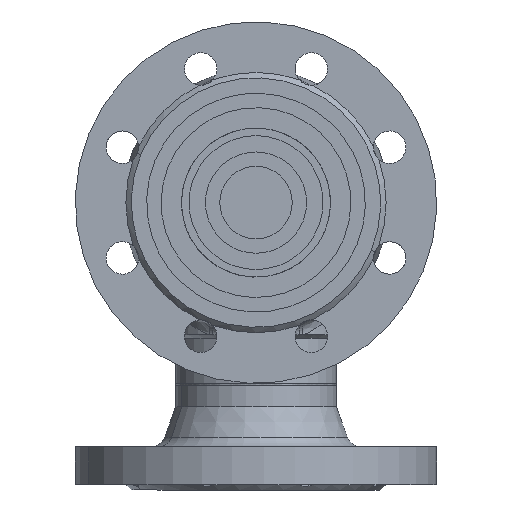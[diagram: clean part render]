
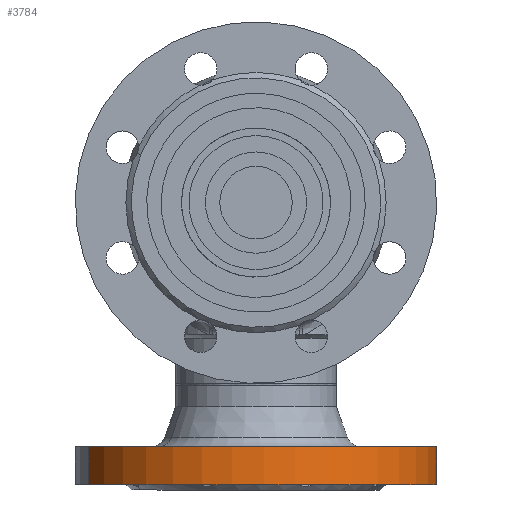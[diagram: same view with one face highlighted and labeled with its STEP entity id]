
A CAD part, front view. The second image highlights one B-rep face of the part: STEP entity #3784.
In plain terms, the highlighted cylindrical face has radius 100 mm (diameter 200 mm), a partial arc.
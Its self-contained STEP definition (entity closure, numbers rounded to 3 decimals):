
#1 = EDGE_LOOP ( 'NONE', ( #17661, #10843, #10031, #6112 ) ) ;
#170 = EDGE_CURVE ( 'NONE', #11891, #10769, #13440, .T. ) ;
#640 = FACE_OUTER_BOUND ( 'NONE', #1, .T. ) ;
#641 = CYLINDRICAL_SURFACE ( 'NONE', #642, 100. ) ;
#642 = AXIS2_PLACEMENT_3D ( 'NONE', #643, #644, #645 ) ;
#643 = CARTESIAN_POINT ( 'NONE',  ( 0., 75., 0. ) ) ;
#644 = DIRECTION ( 'NONE',  ( 0., 1., 0. ) ) ;
#645 = DIRECTION ( 'NONE',  ( -1., 0., 0. ) ) ;
#17661 = ORIENTED_EDGE ( 'NONE', *, *, #7379, .F. ) ;
#19288 = CARTESIAN_POINT ( 'NONE',  ( 100., 24., 0. ) ) ;
#3784 = ADVANCED_FACE ( 'NONE', ( #640 ), #641, .T. ) ;
#6112 = ORIENTED_EDGE ( 'NONE', *, *, #170, .F. ) ;
#7379 = EDGE_CURVE ( 'NONE', #8271, #11891, #11615, .T. ) ;
#8271 = VERTEX_POINT ( 'NONE', #12994 ) ;
#8493 = VERTEX_POINT ( 'NONE', #13211 ) ;
#9882 = EDGE_CURVE ( 'NONE', #8493, #10769, #13994, .T. ) ;
#10031 = ORIENTED_EDGE ( 'NONE', *, *, #9882, .T. ) ;
#10544 = EDGE_CURVE ( 'NONE', #8271, #8493, #15302, .T. ) ;
#10769 = VERTEX_POINT ( 'NONE', #15434 ) ;
#10843 = ORIENTED_EDGE ( 'NONE', *, *, #10544, .T. ) ;
#11615 = LINE ( 'NONE', #11616, #11617 ) ;
#11616 = CARTESIAN_POINT ( 'NONE',  ( 100., 75., 0. ) ) ;
#11617 = VECTOR ( 'NONE', #11618, 1000. ) ;
#11618 = DIRECTION ( 'NONE',  ( 0., 1., 0. ) ) ;
#11891 = VERTEX_POINT ( 'NONE', #19288 ) ;
#12994 = CARTESIAN_POINT ( 'NONE',  ( 100., 3., 0. ) ) ;
#13211 = CARTESIAN_POINT ( 'NONE',  ( -100., 3., 0. ) ) ;
#13440 = CIRCLE ( 'NONE', #13441, 100. ) ;
#13441 = AXIS2_PLACEMENT_3D ( 'NONE', #13442, #13443, #13444 ) ;
#13442 = CARTESIAN_POINT ( 'NONE',  ( 0., 24., 0. ) ) ;
#13443 = DIRECTION ( 'NONE',  ( 0., 1., 0. ) ) ;
#13444 = DIRECTION ( 'NONE',  ( -1., 0., 0. ) ) ;
#13994 = LINE ( 'NONE', #13995, #13996 ) ;
#13995 = CARTESIAN_POINT ( 'NONE',  ( -100., 75., 0. ) ) ;
#13996 = VECTOR ( 'NONE', #13997, 1000. ) ;
#13997 = DIRECTION ( 'NONE',  ( 0., 1., 0. ) ) ;
#15302 = CIRCLE ( 'NONE', #15307, 100. ) ;
#15307 = AXIS2_PLACEMENT_3D ( 'NONE', #15308, #15309, #15310 ) ;
#15308 = CARTESIAN_POINT ( 'NONE',  ( 0., 3., 0. ) ) ;
#15309 = DIRECTION ( 'NONE',  ( 0., 1., 0. ) ) ;
#15310 = DIRECTION ( 'NONE',  ( -1., 0., 0. ) ) ;
#15434 = CARTESIAN_POINT ( 'NONE',  ( -100., 24., 0. ) ) ;
